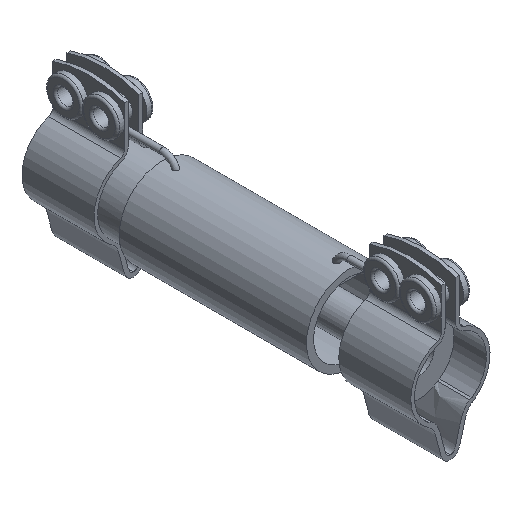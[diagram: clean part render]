
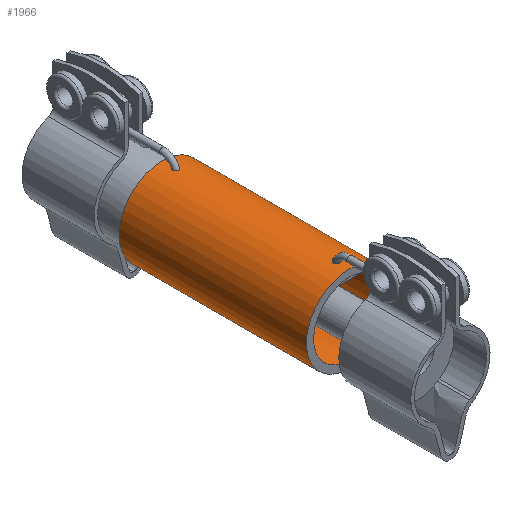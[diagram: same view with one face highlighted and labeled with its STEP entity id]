
A CAD part, isometric view. The second image highlights one B-rep face of the part: STEP entity #1966.
In plain terms, the highlighted cylindrical face has radius 6 mm (diameter 12 mm), a full revolution.
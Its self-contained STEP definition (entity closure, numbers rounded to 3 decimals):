
#213=B_SPLINE_CURVE_WITH_KNOTS($,3,(#3195,#3196,#3197,#3198,#3199,#3200,
#3201,#3202,#3203,#3204,#3205,#3206,#3207,#3208,#3209,#3210,#3211,#3212,
#3213,#3214,#3215,#3216,#3217,#3218,#3219,#3220,#3221,#3222,#3223,#3224,
#3225,#3226,#3227,#3228,#3229,#3230),.UNSPECIFIED.,.T.,.F.,(4,2,2,2,2,2,
2,2,2,2,2,2,2,2,2,2,2,4),(0.,0.015,0.03,0.046,
0.063,0.082,0.101,0.117,
0.131,0.144,0.158,0.175,
0.194,0.212,0.229,0.245,
0.254,0.264),.UNSPECIFIED.);
#214=B_SPLINE_CURVE_WITH_KNOTS($,3,(#3232,#3233,#3234,#3235,#3236,#3237,
#3238,#3239,#3240,#3241,#3242,#3243,#3244,#3245,#3246,#3247,#3248,#3249,
#3250,#3251,#3252,#3253,#3254,#3255,#3256,#3257,#3258,#3259,#3260,#3261,
#3262,#3263,#3264,#3265,#3266,#3267),.UNSPECIFIED.,.T.,.F.,(4,2,2,2,2,2,
2,2,2,2,2,2,2,2,2,2,2,4),(0.,0.015,0.03,0.046,
0.063,0.082,0.101,0.117,
0.131,0.144,0.158,0.175,
0.194,0.212,0.229,0.245,
0.254,0.264),.UNSPECIFIED.);
#299=FACE_BOUND($,#604,.T.);
#300=FACE_BOUND($,#605,.T.);
#301=FACE_BOUND($,#606,.T.);
#302=FACE_BOUND($,#607,.T.);
#367=CYLINDRICAL_SURFACE($,#2166,6.);
#604=EDGE_LOOP($,(#1402));
#605=EDGE_LOOP($,(#1403));
#606=EDGE_LOOP($,(#1404));
#607=EDGE_LOOP($,(#1405));
#765=CIRCLE($,#2167,6.);
#766=CIRCLE($,#2168,6.);
#896=VERTEX_POINT($,#3194);
#897=VERTEX_POINT($,#3231);
#898=VERTEX_POINT($,#3268);
#899=VERTEX_POINT($,#3270);
#1088=EDGE_CURVE($,#896,#896,#213,.T.);
#1089=EDGE_CURVE($,#897,#897,#214,.T.);
#1090=EDGE_CURVE($,#898,#898,#765,.T.);
#1091=EDGE_CURVE($,#899,#899,#766,.T.);
#1402=ORIENTED_EDGE($,*,*,#1088,.T.);
#1403=ORIENTED_EDGE($,*,*,#1089,.T.);
#1404=ORIENTED_EDGE($,*,*,#1090,.T.);
#1405=ORIENTED_EDGE($,*,*,#1091,.F.);
#1966=ADVANCED_FACE($,(#299,#300,#301,#302),#367,.T.);
#2166=AXIS2_PLACEMENT_3D($,#3193,#2562,#2563);
#2167=AXIS2_PLACEMENT_3D($,#3269,#2564,#2565);
#2168=AXIS2_PLACEMENT_3D($,#3271,#2566,#2567);
#2562=DIRECTION('center_axis',(0.,1.,0.));
#2563=DIRECTION('ref_axis',(0.216,0.,-0.976));
#2564=DIRECTION('center_axis',(0.,-1.,0.));
#2565=DIRECTION('ref_axis',(0.216,0.,-0.976));
#2566=DIRECTION('center_axis',(0.,-1.,0.));
#2567=DIRECTION('ref_axis',(0.216,0.,-0.976));
#3193=CARTESIAN_POINT('Origin',(0.,9.5,
0.));
#3194=CARTESIAN_POINT('',(0.,11.763,6.));
#3195=CARTESIAN_POINT('Ctrl Pts',(0.,11.763,6.));
#3196=CARTESIAN_POINT('Ctrl Pts',(0.05,11.763,6.));
#3197=CARTESIAN_POINT('Ctrl Pts',(0.1,11.753,5.999));
#3198=CARTESIAN_POINT('Ctrl Pts',(0.194,11.715,5.997));
#3199=CARTESIAN_POINT('Ctrl Pts',(0.237,11.686,5.995));
#3200=CARTESIAN_POINT('Ctrl Pts',(0.311,11.613,5.992));
#3201=CARTESIAN_POINT('Ctrl Pts',(0.341,11.569,5.99));
#3202=CARTESIAN_POINT('Ctrl Pts',(0.385,11.468,5.988));
#3203=CARTESIAN_POINT('Ctrl Pts',(0.398,11.412,5.987));
#3204=CARTESIAN_POINT('Ctrl Pts',(0.402,11.294,5.987));
#3205=CARTESIAN_POINT('Ctrl Pts',(0.392,11.232,5.987));
#3206=CARTESIAN_POINT('Ctrl Pts',(0.35,11.115,5.99));
#3207=CARTESIAN_POINT('Ctrl Pts',(0.317,11.06,5.992));
#3208=CARTESIAN_POINT('Ctrl Pts',(0.238,10.974,5.995));
#3209=CARTESIAN_POINT('Ctrl Pts',(0.194,10.941,5.997));
#3210=CARTESIAN_POINT('Ctrl Pts',(0.104,10.899,5.999));
#3211=CARTESIAN_POINT('Ctrl Pts',(0.059,10.888,6.));
#3212=CARTESIAN_POINT('Ctrl Pts',(-0.031,10.884,6.));
#3213=CARTESIAN_POINT('Ctrl Pts',(-0.075,10.891,
6.));
#3214=CARTESIAN_POINT('Ctrl Pts',(-0.161,10.922,5.998));
#3215=CARTESIAN_POINT('Ctrl Pts',(-0.202,10.947,5.997));
#3216=CARTESIAN_POINT('Ctrl Pts',(-0.28,11.015,5.994));
#3217=CARTESIAN_POINT('Ctrl Pts',(-0.316,11.06,5.992));
#3218=CARTESIAN_POINT('Ctrl Pts',(-0.372,11.165,5.989));
#3219=CARTESIAN_POINT('Ctrl Pts',(-0.391,11.226,5.987));
#3220=CARTESIAN_POINT('Ctrl Pts',(-0.404,11.349,5.986));
#3221=CARTESIAN_POINT('Ctrl Pts',(-0.399,11.411,5.987));
#3222=CARTESIAN_POINT('Ctrl Pts',(-0.365,11.524,5.989));
#3223=CARTESIAN_POINT('Ctrl Pts',(-0.338,11.575,5.991));
#3224=CARTESIAN_POINT('Ctrl Pts',(-0.269,11.659,5.994));
#3225=CARTESIAN_POINT('Ctrl Pts',(-0.228,11.693,5.996));
#3226=CARTESIAN_POINT('Ctrl Pts',(-0.153,11.732,5.998));
#3227=CARTESIAN_POINT('Ctrl Pts',(-0.124,11.744,5.999));
#3228=CARTESIAN_POINT('Ctrl Pts',(-0.063,11.759,
6.));
#3229=CARTESIAN_POINT('Ctrl Pts',(-0.031,11.763,6.));
#3230=CARTESIAN_POINT('Ctrl Pts',(0.,11.763,6.));
#3231=CARTESIAN_POINT('',(0.,33.237,6.));
#3232=CARTESIAN_POINT('Ctrl Pts',(0.,33.237,6.));
#3233=CARTESIAN_POINT('Ctrl Pts',(-0.05,33.237,6.));
#3234=CARTESIAN_POINT('Ctrl Pts',(-0.1,33.247,
5.999));
#3235=CARTESIAN_POINT('Ctrl Pts',(-0.194,33.285,5.997));
#3236=CARTESIAN_POINT('Ctrl Pts',(-0.237,33.314,5.995));
#3237=CARTESIAN_POINT('Ctrl Pts',(-0.311,33.387,5.992));
#3238=CARTESIAN_POINT('Ctrl Pts',(-0.341,33.431,5.99));
#3239=CARTESIAN_POINT('Ctrl Pts',(-0.385,33.532,5.988));
#3240=CARTESIAN_POINT('Ctrl Pts',(-0.398,33.588,5.987));
#3241=CARTESIAN_POINT('Ctrl Pts',(-0.402,33.706,5.987));
#3242=CARTESIAN_POINT('Ctrl Pts',(-0.392,33.768,5.987));
#3243=CARTESIAN_POINT('Ctrl Pts',(-0.35,33.885,5.99));
#3244=CARTESIAN_POINT('Ctrl Pts',(-0.317,33.94,5.992));
#3245=CARTESIAN_POINT('Ctrl Pts',(-0.238,34.026,5.995));
#3246=CARTESIAN_POINT('Ctrl Pts',(-0.194,34.059,5.997));
#3247=CARTESIAN_POINT('Ctrl Pts',(-0.104,34.101,5.999));
#3248=CARTESIAN_POINT('Ctrl Pts',(-0.059,34.112,
6.));
#3249=CARTESIAN_POINT('Ctrl Pts',(0.031,34.116,6.));
#3250=CARTESIAN_POINT('Ctrl Pts',(0.075,34.109,6.));
#3251=CARTESIAN_POINT('Ctrl Pts',(0.161,34.078,5.998));
#3252=CARTESIAN_POINT('Ctrl Pts',(0.202,34.053,5.997));
#3253=CARTESIAN_POINT('Ctrl Pts',(0.28,33.985,5.994));
#3254=CARTESIAN_POINT('Ctrl Pts',(0.316,33.94,5.992));
#3255=CARTESIAN_POINT('Ctrl Pts',(0.372,33.835,5.989));
#3256=CARTESIAN_POINT('Ctrl Pts',(0.391,33.774,5.987));
#3257=CARTESIAN_POINT('Ctrl Pts',(0.404,33.651,5.986));
#3258=CARTESIAN_POINT('Ctrl Pts',(0.399,33.589,5.987));
#3259=CARTESIAN_POINT('Ctrl Pts',(0.365,33.476,5.989));
#3260=CARTESIAN_POINT('Ctrl Pts',(0.338,33.425,5.991));
#3261=CARTESIAN_POINT('Ctrl Pts',(0.269,33.341,5.994));
#3262=CARTESIAN_POINT('Ctrl Pts',(0.228,33.307,5.996));
#3263=CARTESIAN_POINT('Ctrl Pts',(0.153,33.268,5.998));
#3264=CARTESIAN_POINT('Ctrl Pts',(0.124,33.256,5.999));
#3265=CARTESIAN_POINT('Ctrl Pts',(0.063,33.241,6.));
#3266=CARTESIAN_POINT('Ctrl Pts',(0.031,33.237,6.));
#3267=CARTESIAN_POINT('Ctrl Pts',(0.,33.237,6.));
#3268=CARTESIAN_POINT('',(-1.293,35.5,5.859));
#3269=CARTESIAN_POINT('Origin',(0.,35.5,0.));
#3270=CARTESIAN_POINT('',(-1.293,9.5,5.859));
#3271=CARTESIAN_POINT('Origin',(0.,9.5,
0.));
